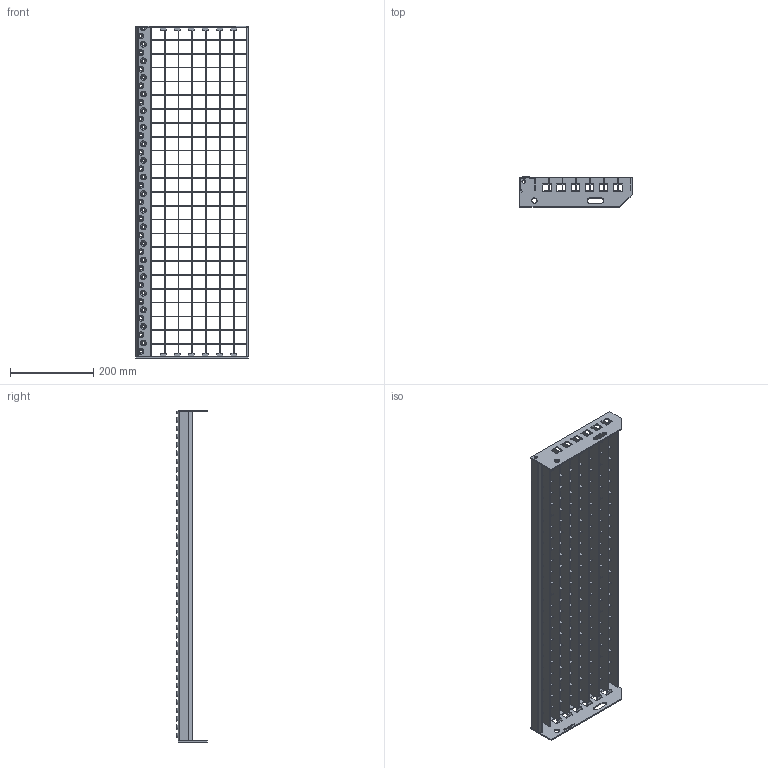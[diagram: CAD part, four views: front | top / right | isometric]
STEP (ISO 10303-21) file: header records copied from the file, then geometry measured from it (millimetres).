
FILE_DESCRIPTION(/* description */ ('','CAx-IF Rec.Pracs.---Representation and Presentation of Product Manufacturing Information (PMI)---3.8---2014-02-18'),/* implementation_level */ '2;1');
FILE_NAME(/* name */ 'C:\Users\phaverkotte\Desktop\Lager STEP\P-Stufen\P 230-33-2\P 230-33-2 800mm x 270mm.stp',/* time_stamp */ '2018-03-24T09:50:58+01:00',/* author */ ('phaverkotte'),/* organization */ (''),/* preprocessor_version */ 'ST-DEVELOPER v16.13',/* originating_system */ 'Autodesk Inventor 2018',/* authorisation */ '');
FILE_SCHEMA (('AP242_MANAGED_MODEL_BASED_3D_ENGINEERING_MIM_LF { 1 0 10303 442 1 1 4 }'));
Length unit declared in the file: millimetre
Products named in the file (8): Schodišťový stupeň přím
ý lisovaný; Seitenplatte ausgeklinkt links; Seitenplatte 240 ausgeklinkt extern rechts; Schod nášlap; P Rošt schodu; Querstab; P Nosný pás; Hinteres Flach
Assembly tree (35 placements, depth 3):
  Schodišťový stupeň přím
ý lisovaný
    Seitenplatte ausgeklinkt links
    Seitenplatte 240 ausgeklinkt extern rechts
    Schod nášlap
    P Rošt schodu
      Querstab  x23
      P Nosný pás  x7
      Hinteres Flach
Bounding box: 270.31 x 72.75 x 800 mm (x, y, z)
Volume: 693787 mm3; surface area: 709820.2 mm2
Topology: 34 solids, 34 shells, 1456 faces, 4003 edges, 2632 vertices
Faces by surface type: plane 1140, cylinder 132, cone 120, torus 40, bspline 24
Full cylindrical faces by diameter (mm): 8 x2, 13 x2
Entity records: 26565 total; most frequent: CARTESIAN_POINT 8020, DIRECTION 3694, ORIENTED_EDGE 3544, EDGE_CURVE 1772, LINE 1252, VECTOR 1252, VERTEX_POINT 1225, AXIS2_PLACEMENT_3D 1221
